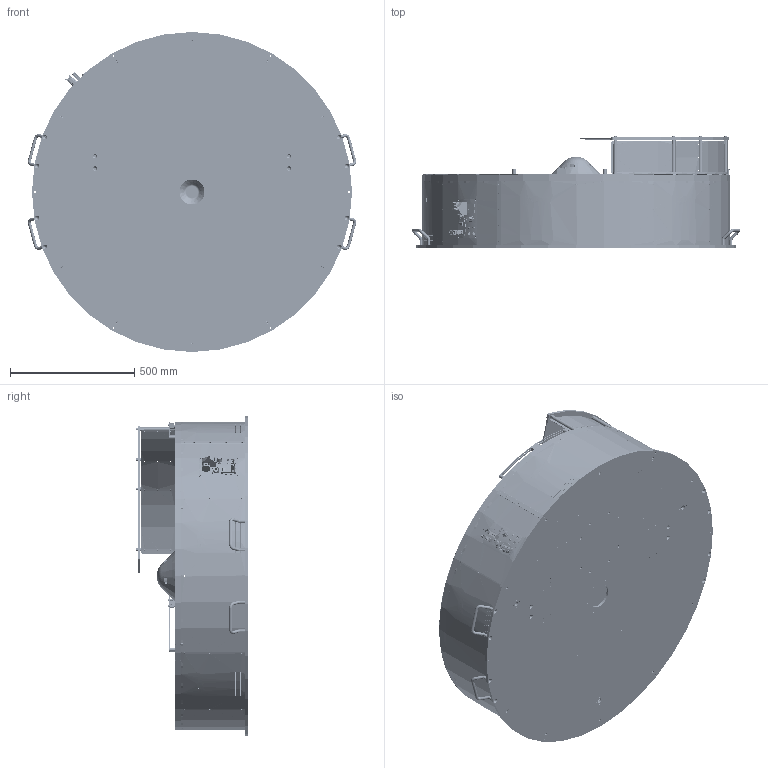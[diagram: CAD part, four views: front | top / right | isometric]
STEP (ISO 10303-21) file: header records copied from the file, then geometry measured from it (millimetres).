
FILE_DESCRIPTION (( 'STEP AP214' ), '1' );
FILE_NAME ('GM001120_COPIA 3D.STEP', '2023-05-24T14:56:16', ( '' ), ( '' ), 'SwSTEP 2.0', 'SolidWorks 2022', '' );
FILE_SCHEMA (( 'AUTOMOTIVE_DESIGN' ));
Length unit declared in the file: millimetre
Products named in the file (60): CE000316; PD003266; CM000051; CM000686_002; CM000008_002; PD003258_001; CM000006; PD003249; PD003263; PD003274; PD003267; CM000008_004; CM000001; CM000026; PD003259; PD000043; CE000420; CM000025; PD001428; PD003218; CE000007; CM000008_001; CM000024; PD003258; CM000166; PD001360_FB500; PD003268; PD003258_003; PD003221; CM000686_001; PD003261; PD004854; PD003265; CM000686; PD003273; PD003222; CE000421; CE000013; PD001426; CE000276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
Assembly tree (126 placements, depth 3):
  GM001120_COPIA 3D
    CM000166  x8
    CM000027  x4
    CM000051  x4
    CM000024  x10
    CM000026  x10
    CM000025  x4
    CM000043  x2
    PD003218
    PD003222  x10
    PD003219
    PD003221  x2
    PD003220
    PD003244
    PD003249
    PD003256
    PD003258
      PD003258_001
      PD003258_002
      PD003258_003
    PD001360_FB500
    PD003259  x2
    PD003261
    PD003265  x2
    PD003266  x4
    PD003267  x2
    PD000043  x4
    PD003268
    PD003263
    PD003272  x4
    PD003269
    PD003317
    PD001119  x2
    PD001426
    PD001428
    PD003273
    PD003274
    PD003262
    PD004854
    CE000007
    CE000013  x2
    CE000005
    CE000030  x2
    CE000316
    CE000276
    CE000420
    CE000419
    CE000418
    CE000421
    CM000006  x4
    CM000008
      CM000008_001
      CM000008_003  x2
      CM000008_002
      CM000008_004
      CM000008_005
    CM000686
      CM000686_001
      CM000686_002
    CM000001  x4
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Bounding box: 1322.61 x 451 x 1290 mm (x, y, z)
Volume: 35778774.3 mm3; surface area: 12211250.3 mm2
Topology: 126 solids, 145 shells, 12050 faces, 32232 edges, 20769 vertices
Faces by surface type: plane 5256, cylinder 3576, bspline 1736, cone 1113, torus 310, sphere 59
Entity records: 561369 total; most frequent: CARTESIAN_POINT 267523, ORIENTED_EDGE 56426, DIRECTION 44350, EDGE_CURVE 28415, VERTEX_POINT 18562, AXIS2_PLACEMENT_3D 16259, EDGE_LOOP 12312, LINE 11832
